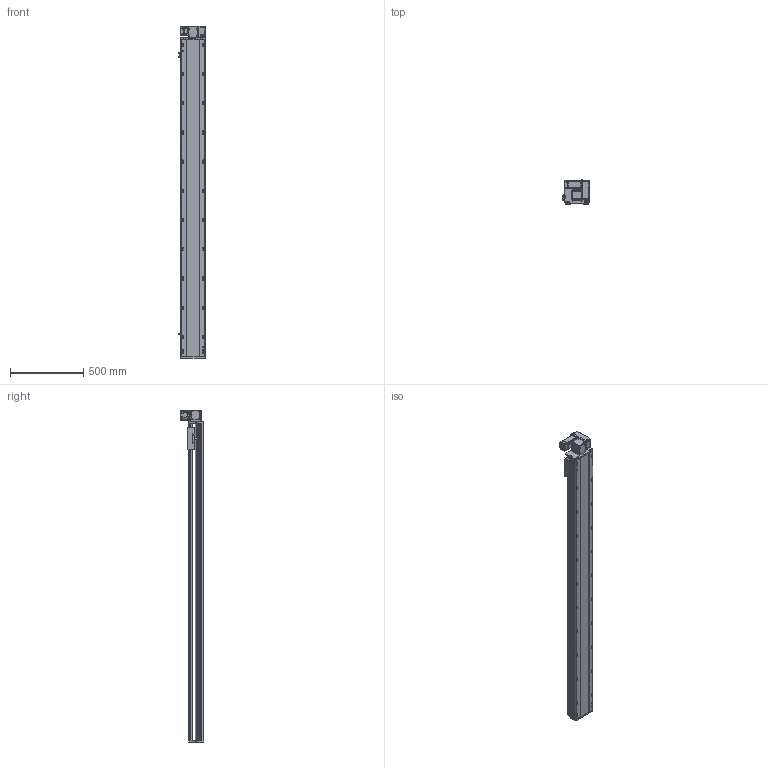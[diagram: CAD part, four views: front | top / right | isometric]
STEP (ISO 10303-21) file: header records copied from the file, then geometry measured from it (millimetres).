
FILE_DESCRIPTION (( 'STEP AP214' ), '1' );
FILE_NAME ('RTB17S-XX-1900-RW-M40-C4.STEP', '2025-12-11T09:07:04', ( '' ), ( '' ), 'SwSTEP 2.0', 'SolidWorks 2018', '' );
FILE_SCHEMA (( 'AUTOMOTIVE_DESIGN' ));
Length unit declared in the file: millimetre
Products named in the file (14): RTB17S-L-001耜醱啣^RTB17S-XX-XX-RW-M40-C4; RMP17S-L-014-T20--々湍釱^RTB17S-RW-々湍釱蚾饜-400W_RTB17S-XX-XX-RW-M40-C4; RTB14-L-017P^RTB17S-RW-々湍釱蚾饜-400W_RTB17S-XX-XX-RW-M40-C4; RTB17S-L-004佪裝蹟譫蟀諉釱^RTB17S-XX-XX-RW-M40-C4; RTB17S-L-007奻裔^RTB17S-XX-XX-RW-M40-C4; RTB14-L-005P--轴承塑胶压盖^RTB17S-RW-皮带座装配-400W_RTB17S-XX-XX-RW-M40-C4; RTB17S-XX-1900-RW-M40-C4; RTB17-R-011菁釱^RTB17S-XX-XX-RW-M40-C4; RTB17S-RW-々湍釱蚾饜-400W^RTB17S-XX-XX-RW-M40-C4; RTB14-L-018P^RTB17S-RW-々湍釱蚾饜-400W_RTB17S-XX-XX-RW-M40-C4; RTB14-L-008-M20--萇儂啣^RTB17S-RW-々湍釱蚾饜-400W_RTB17S-XX-XX-RW-M40-C4; 400W侜督萇儂^RTB17S-XX-XX-RW-M40-C4; OMRON EE-SX672 传感器^RTB17S-XX-XX-RW-M40-C4; RTH13-BL-012覜茼え俋离^RTB17S-XX-XX-RW-M40-C4
Assembly tree (16 placements, depth 3):
  RTB17S-XX-1900-RW-M40-C4
    RTB17-R-011菁釱^RTB17S-XX-XX-RW-M40-C4
    RTB17S-L-007奻裔^RTB17S-XX-XX-RW-M40-C4
    OMRON EE-SX672 传感器^RTB17S-XX-XX-RW-M40-C4  x3
    RTB17S-L-001耜醱啣^RTB17S-XX-XX-RW-M40-C4
    400W侜督萇儂^RTB17S-XX-XX-RW-M40-C4
    RTB17S-L-004佪裝蹟譫蟀諉釱^RTB17S-XX-XX-RW-M40-C4
    RTH13-BL-012覜茼え俋离^RTB17S-XX-XX-RW-M40-C4
    RTB17S-RW-々湍釱蚾饜-400W^RTB17S-XX-XX-RW-M40-C4
      RMP17S-L-014-T20--々湍釱^RTB17S-RW-々湍釱蚾饜-400W_RTB17S-XX-XX-RW-M40-C4
      RTB14-L-005P--轴承塑胶压盖^RTB17S-RW-皮带座装配-400W_RTB17S-XX-XX-RW-M40-C4
      RTB14-L-008-M20--萇儂啣^RTB17S-RW-々湍釱蚾饜-400W_RTB17S-XX-XX-RW-M40-C4
      RTB14-L-017P^RTB17S-RW-々湍釱蚾饜-400W_RTB17S-XX-XX-RW-M40-C4  x2
      RTB14-L-018P^RTB17S-RW-々湍釱蚾饜-400W_RTB17S-XX-XX-RW-M40-C4
Bounding box: 183.5 x 160.5 x 2272.5 mm (x, y, z)
Volume: 19711159.2 mm3; surface area: 2299326.4 mm2
Topology: 15 solids, 15 shells, 2285 faces, 6357 edges, 4149 vertices
Faces by surface type: plane 1078, cylinder 759, bspline 301, cone 139, torus 8
Entity records: 66473 total; most frequent: CARTESIAN_POINT 18762, ORIENTED_EDGE 9558, DIRECTION 8846, EDGE_CURVE 4779, VERTEX_POINT 3137, AXIS2_PLACEMENT_3D 3067, VECTOR 2712, LINE 2712
